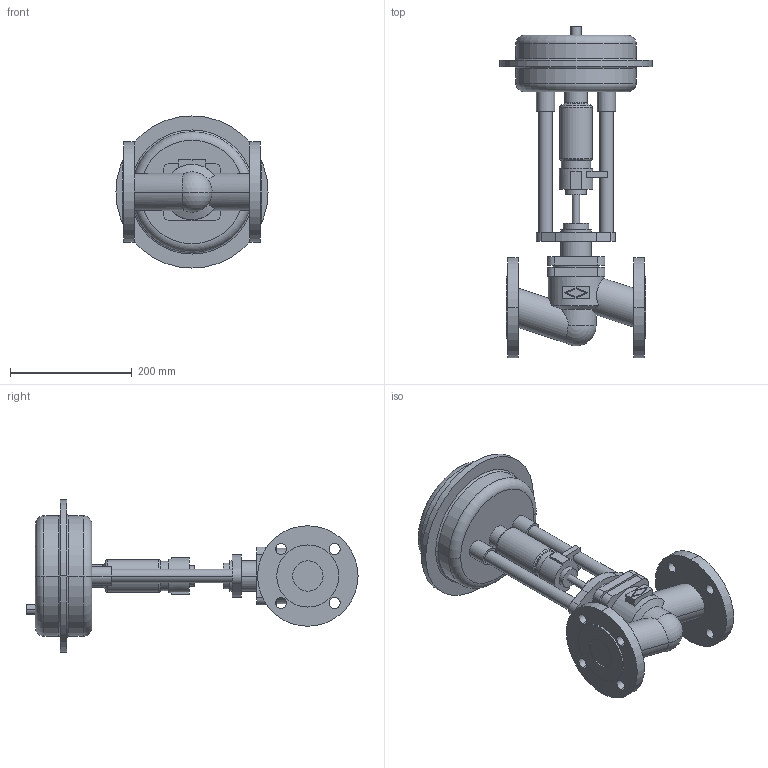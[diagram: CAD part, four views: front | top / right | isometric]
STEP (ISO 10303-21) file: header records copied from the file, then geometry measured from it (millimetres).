
FILE_DESCRIPTION(('OneSpaceDesigner STEP Export'),'2;1');
FILE_NAME('c000001406.stp','2005-02-14T14:04:18',(''),(''),'OneSpace Designer STEP processor (Jan. 2003) for AP203(Solid Model)','OneSpace Designer 12.01D 09-Jul-2004 (C) CoCreate Software GmbH','');
FILE_SCHEMA(('CONFIG_CONTROL_DESIGN'));
Length unit declared in the file: millimetre
Products named in the file (2): 1; 2
Bounding box: 250 x 545.5 x 250 mm (x, y, z)
Volume: 5615004.6 mm3; surface area: 420953.2 mm2
Topology: 2 solids, 2 shells, 181 faces, 436 edges, 284 vertices
Faces by surface type: cylinder 84, plane 73, torus 16, cone 6, sphere 2
Entity records: 5105 total; most frequent: CARTESIAN_POINT 1044, ORIENTED_EDGE 868, DIRECTION 727, EDGE_CURVE 434, VERTEX_POINT 284, AXIS2_PLACEMENT_3D 264, EDGE_LOOP 224, VECTOR 199
